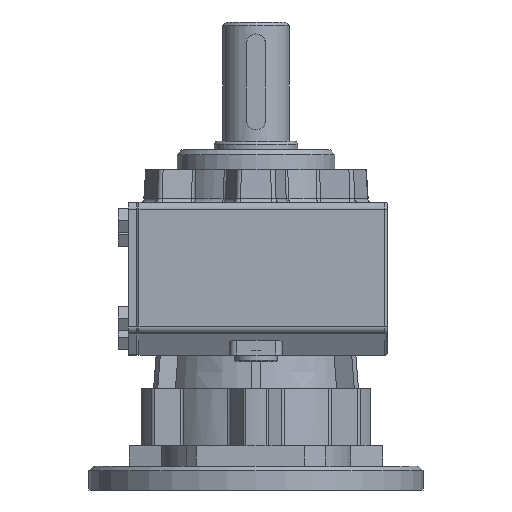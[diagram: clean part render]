
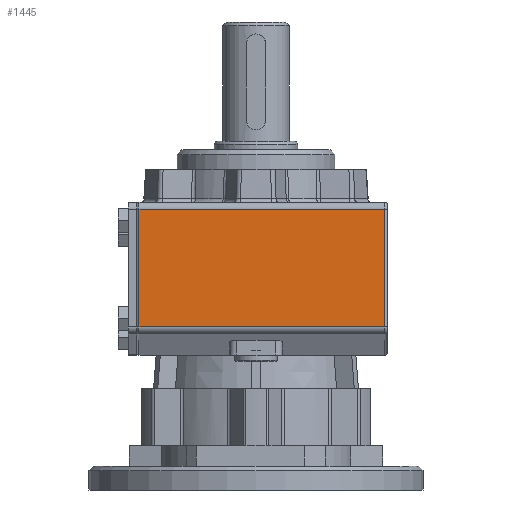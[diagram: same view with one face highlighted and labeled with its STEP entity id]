
A CAD part, left-side view. The second image highlights one B-rep face of the part: STEP entity #1445.
In plain terms, the highlighted planar face has unit normal (-1, 0, 0).
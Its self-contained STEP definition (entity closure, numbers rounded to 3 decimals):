
#1445 = ADVANCED_FACE( '', ( #3159 ), #3160, .T. );
#3159 = FACE_OUTER_BOUND( '', #5857, .T. );
#3160 = PLANE( '', #5858 );
#5857 = EDGE_LOOP( '', ( #10213, #10214, #10215, #10216 ) );
#5858 = AXIS2_PLACEMENT_3D( '', #10217, #10218, #10219 );
#10213 = ORIENTED_EDGE( '', *, *, #13340, .F. );
#10214 = ORIENTED_EDGE( '', *, *, #13341, .F. );
#10215 = ORIENTED_EDGE( '', *, *, #13204, .F. );
#10216 = ORIENTED_EDGE( '', *, *, #12306, .T. );
#10217 = CARTESIAN_POINT( '', ( -60., 50., -77.8 ) );
#10218 = DIRECTION( '', ( -1., 0., 0. ) );
#10219 = DIRECTION( '', ( 0., 1., 0. ) );
#12306 = EDGE_CURVE( '', #14421, #14723, #14725, .T. );
#13204 = EDGE_CURVE( '', #14421, #15487, #16020, .T. );
#13340 = EDGE_CURVE( '', #14565, #14723, #16183, .T. );
#13341 = EDGE_CURVE( '', #15487, #14565, #16184, .T. );
#14421 = VERTEX_POINT( '', #17705 );
#14565 = VERTEX_POINT( '', #18067 );
#14723 = VERTEX_POINT( '', #18429 );
#14725 = LINE( '', #18431, #18432 );
#15487 = VERTEX_POINT( '', #20018 );
#16020 = LINE( '', #21269, #21270 );
#16183 = LINE( '', #21524, #21525 );
#16184 = LINE( '', #21526, #21527 );
#17705 = CARTESIAN_POINT( '', ( -60., -54., -66.018 ) );
#18067 = CARTESIAN_POINT( '', ( -60., 49., -16.8 ) );
#18429 = CARTESIAN_POINT( '', ( -60., -54., -16.8 ) );
#18431 = CARTESIAN_POINT( '', ( -60., -54., -77.8 ) );
#18432 = VECTOR( '', #22809, 1000. );
#20018 = CARTESIAN_POINT( '', ( -60., 49., -66.018 ) );
#21269 = CARTESIAN_POINT( '', ( -60., 50., -66.018 ) );
#21270 = VECTOR( '', #23765, 1000. );
#21524 = CARTESIAN_POINT( '', ( -60., 50., -16.8 ) );
#21525 = VECTOR( '', #23869, 1000. );
#21526 = CARTESIAN_POINT( '', ( -60., 49., -77.8 ) );
#21527 = VECTOR( '', #23870, 1000. );
#22809 = DIRECTION( '', ( 0., 0., 1. ) );
#23765 = DIRECTION( '', ( 0., 1., 0. ) );
#23869 = DIRECTION( '', ( 0., -1., 0. ) );
#23870 = DIRECTION( '', ( 0., 0., 1. ) );
